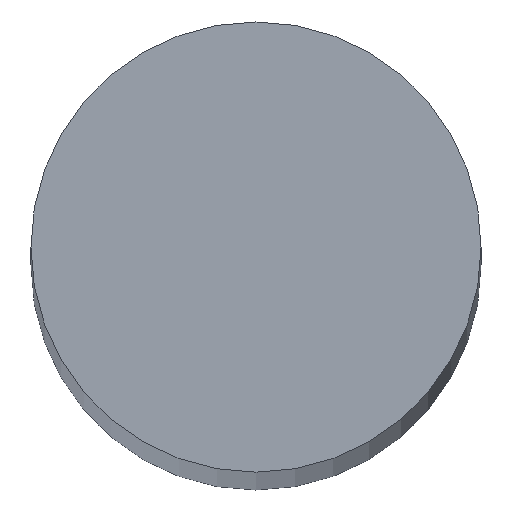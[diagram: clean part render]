
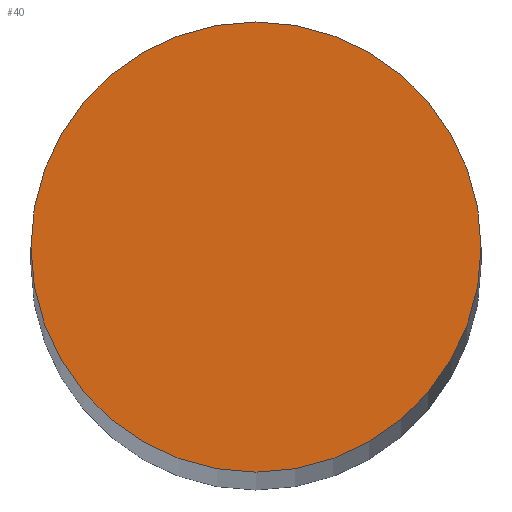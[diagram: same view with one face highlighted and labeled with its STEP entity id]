
A CAD part, top view. The second image highlights one B-rep face of the part: STEP entity #40.
In plain terms, the highlighted planar face has unit normal (0, 0, 1).
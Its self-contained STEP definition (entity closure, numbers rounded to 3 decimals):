
#15=PLANE('',#59);
#18=FACE_OUTER_BOUND('',#21,.T.);
#21=EDGE_LOOP('',(#36));
#25=CIRCLE('',#57,1.65);
#27=VERTEX_POINT('',#76);
#29=EDGE_CURVE('',#27,#27,#25,.T.);
#36=ORIENTED_EDGE('',*,*,#29,.T.);
#40=ADVANCED_FACE('',(#18),#15,.T.);
#57=AXIS2_PLACEMENT_3D('',#77,#65,#66);
#59=AXIS2_PLACEMENT_3D('',#81,#70,#71);
#65=DIRECTION('center_axis',(0.,0.,1.));
#66=DIRECTION('ref_axis',(-1.,0.,0.));
#70=DIRECTION('center_axis',(0.,0.,1.));
#71=DIRECTION('ref_axis',(-1.,0.,0.));
#76=CARTESIAN_POINT('',(-128.35,25.,181.));
#77=CARTESIAN_POINT('Origin',(-130.,25.,181.));
#81=CARTESIAN_POINT('Origin',(-155.,25.,181.));
